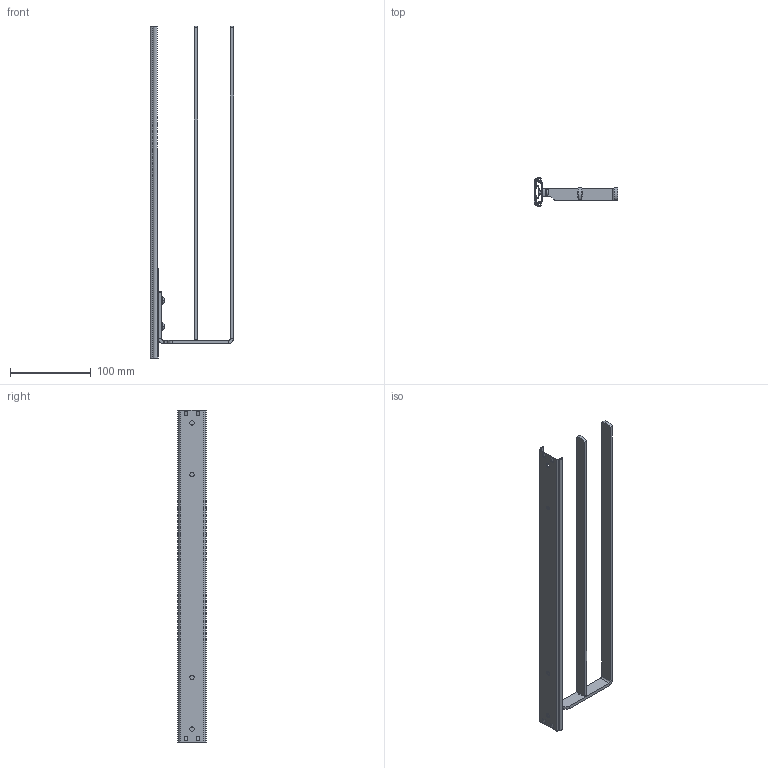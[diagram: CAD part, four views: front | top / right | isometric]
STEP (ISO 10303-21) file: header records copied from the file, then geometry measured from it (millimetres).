
FILE_DESCRIPTION((''),'2;1');
FILE_NAME('238507_ASM','2022-07-15T08:16:37',('1ke04'),('Kesseboehmer'),'CREO PARAMETRIC BY PTC INC, 2020184','CREO PARAMETRIC BY PTC INC, 2020184','');
FILE_SCHEMA(('AUTOMOTIVE_DESIGN { 1 0 10303 214 1 1 1 1 }'));
Length unit declared in the file: millimetre
Products named in the file (10): 185931_A; 185931_KUGELKAEFIG; 185931_LAEUFER; 185931_ASM; 830063-02; 830062; 830063_ASM; FEDERSCHEIBE_DIN_137; LINSENSCHRAUBE-ISO-7380; 238507_ASM
Assembly tree (11 placements, depth 3):
  238507_ASM
    185931_ASM
      185931_A
      185931_KUGELKAEFIG
      185931_LAEUFER
    830063_ASM
      830063-02
      830062
    FEDERSCHEIBE_DIN_137  x2
    LINSENSCHRAUBE-ISO-7380  x2
Bounding box: 102.6 x 35.3 x 410 mm (x, y, z)
Volume: 82267.9 mm3; surface area: 104074.2 mm2
Topology: 9 solids, 13 shells, 311 faces, 711 edges, 434 vertices
Faces by surface type: plane 188, cylinder 91, cone 16, sphere 12, bspline 4
Entity records: 13367 total; most frequent: CARTESIAN_POINT 2299, DIRECTION 1692, ORIENTED_EDGE 1268, EDGE_CURVE 640, AXIS2_PLACEMENT_3D 603, PROPERTY_DEFINITION 484, REPRESENTATION 475, PROPERTY_DEFINITION_REPRESENTATION 475
